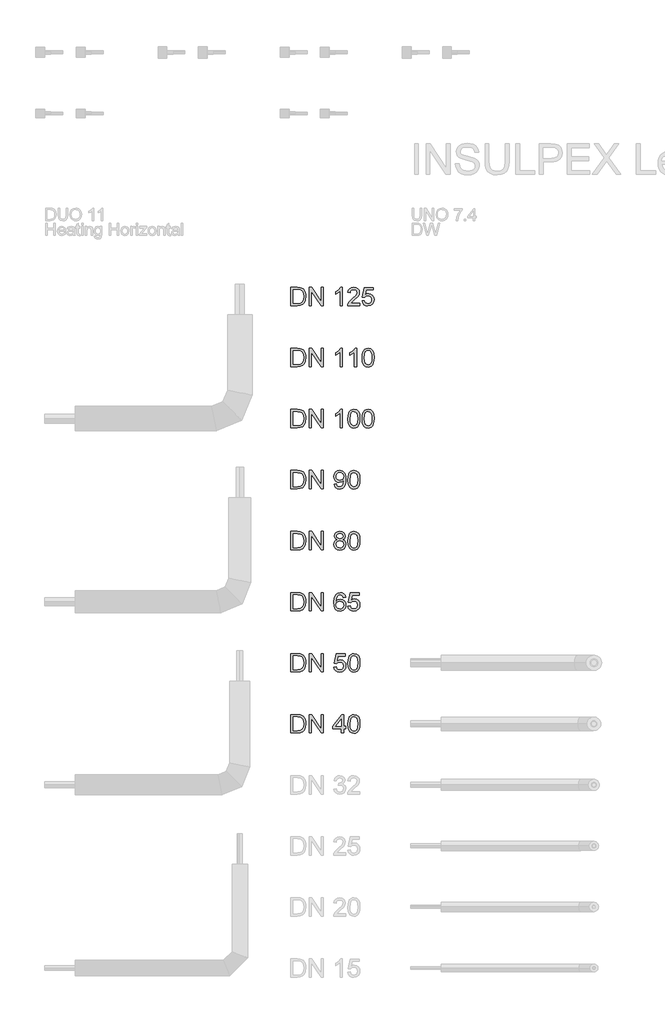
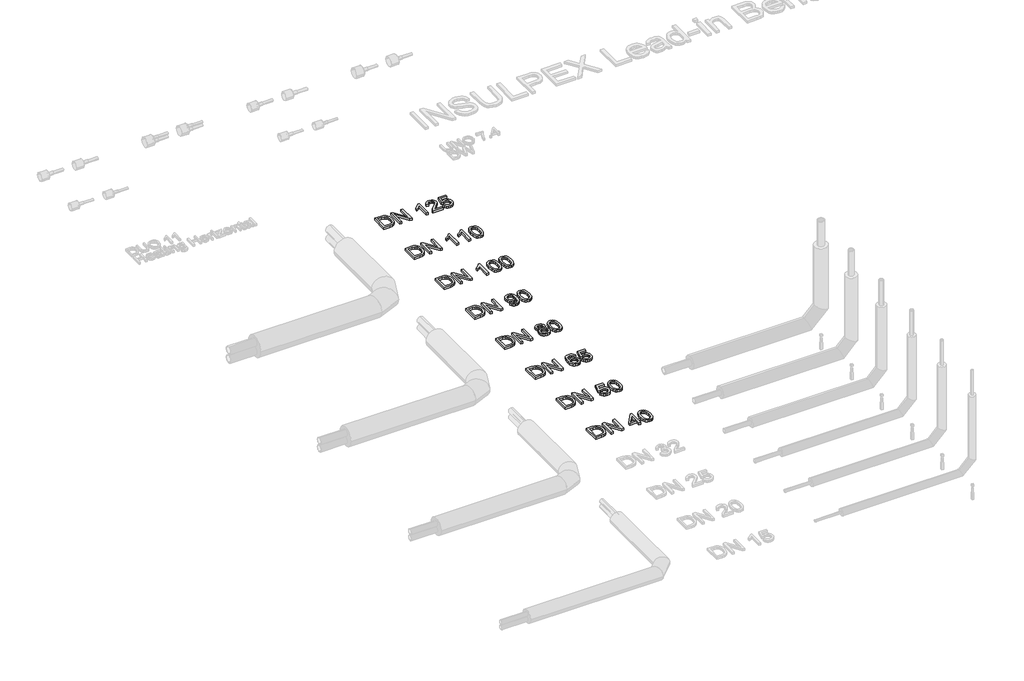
# One storey, part 19 of 44: 8 proxies.
"""IFC4 building model written with IfcOpenShell, lengths in millimetres."""

import ifcopenshell
import ifcopenshell.guid

model = None  # the IFC model being written
_history = None  # IfcOwnerHistory: only IFC2X3 demands one
_inside = {}  # id of a spatial element -> (the spatial element, [elements in it])
_under = {}  # id of a project, library or spatial element -> (it, [spatial elements below it])
_declared = {}  # id of a project -> (the project, [libraries it declares])
_typed = {}  # id of a type object -> (the type object, [elements of that type])
_made_of = {}  # id of a material, layer set ... -> (it, [elements and type objects made of it])


def new_model(schema):
    """Start an empty IFC model of exactly this schema.

    Asked for "IFC4X3", IfcOpenShell would pick the latest addendum, in which some entities
    have other attributes; the version numbers below select the first issue.
    IFC2X3 requires an IfcOwnerHistory on every rooted entity: one is made here for all.
    """
    global model, _history
    if schema == "IFC4X3":
        model = ifcopenshell.file(schema_version=(4, 3, 0, 0))
    else:
        model = ifcopenshell.file(schema=schema)
    _inside.clear()
    _under.clear()
    _declared.clear()
    _typed.clear()
    _made_of.clear()
    _history = None
    if model.schema == "IFC2X3":
        org = make("IfcOrganization", Name="unknown")
        user = make(
            "IfcPersonAndOrganization",
            ThePerson=make("IfcPerson", FamilyName="unknown"),
            TheOrganization=org,
        )
        app = make(
            "IfcApplication",
            ApplicationDeveloper=org,
            Version="unknown",
            ApplicationFullName="unknown",
            ApplicationIdentifier="unknown",
        )
        _history = make(
            "IfcOwnerHistory",
            OwningUser=user,
            OwningApplication=app,
            ChangeAction="ADDED",
            CreationDate=0,
        )
    return model


def make(cls, **values):
    """One entity of the class cls with the attributes given. An attribute that is None is left unset."""
    return model.create_entity(
        cls, **{name: value for name, value in values.items() if value is not None}
    )


def rooted(cls, **values):
    """An entity with a GlobalId (a new one), such as an element, a storey or a relation."""
    return make(cls, GlobalId=ifcopenshell.guid.new(), OwnerHistory=_history, **values)


def si_unit(unit_type, name, prefix=None):
    """IfcSIUnit, for example si_unit("LENGTHUNIT", "METRE", prefix="MILLI")."""
    return make("IfcSIUnit", UnitType=unit_type, Prefix=prefix, Name=name)


def assignment(units):
    """IfcUnitAssignment: the units of a project."""
    return None if units is None else make("IfcUnitAssignment", Units=units)


def point(xyz):
    """IfcCartesianPoint."""
    return None if xyz is None else make("IfcCartesianPoint", Coordinates=xyz)


def direction(xyz):
    """IfcDirection."""
    return None if xyz is None else make("IfcDirection", DirectionRatios=xyz)


def frame(location, z_axis=None, x_axis=None):
    """IfcAxis2Placement3D, a coordinate frame: its origin and axes. An axis left out is left unset."""
    return make(
        "IfcAxis2Placement3D",
        Location=point(location),
        Axis=direction(z_axis),
        RefDirection=direction(x_axis),
    )


def origin():
    """The frame at (0, 0, 0) with its axes left unset."""
    return frame((0.0, 0.0, 0.0))


def origin_with_axes():
    """The frame at (0, 0, 0) with the z axis (0, 0, 1) and the x axis (1, 0, 0) written out."""
    return frame((0.0, 0.0, 0.0), z_axis=(0.0, 0.0, 1.0), x_axis=(1.0, 0.0, 0.0))


def place(relative_to, where):
    """IfcLocalPlacement: puts the frame where relative to a parent placement (None: the world)."""
    return make(
        "IfcLocalPlacement", PlacementRelTo=relative_to, RelativePlacement=where
    )


def context(
    kind, dimensions, precision=None, world=None, true_north=None, identifier=None
):
    """IfcGeometricRepresentationContext, for example the 3D "Model" context."""
    return make(
        "IfcGeometricRepresentationContext",
        ContextIdentifier=identifier,
        ContextType=kind,
        CoordinateSpaceDimension=dimensions,
        Precision=precision,
        WorldCoordinateSystem=world,
        TrueNorth=true_north,
    )


def project(units=None, contexts=None):
    """IfcProject with its units and contexts."""
    return rooted(
        "IfcProject",
        Name="project",
        RepresentationContexts=contexts,
        UnitsInContext=assignment(units),
    )


def spatial(cls, under=None, at=None, **own):
    """A site, building, storey or space (cls), placed at a placement, below another one or the project."""
    s = rooted(cls, ObjectPlacement=at, **own)
    if under is not None:
        _under.setdefault(under.id(), (under, []))[1].append(s)
    return s


def polyline(points):
    """IfcPolyline through the points."""
    return make("IfcPolyline", Points=[point(p) for p in points])


def outline(outer, holes=None, kind="AREA"):
    """IfcArbitraryClosedProfileDef: a profile drawn as a closed curve; with holes, ...WithVoids."""
    if holes is None:
        return make("IfcArbitraryClosedProfileDef", ProfileType=kind, OuterCurve=outer)
    return make(
        "IfcArbitraryProfileDefWithVoids",
        ProfileType=kind,
        OuterCurve=outer,
        InnerCurves=holes,
    )


def extrude(swept, where, along, depth):
    """IfcExtrudedAreaSolid: the profile swept, set in the frame where, extruded along a direction by depth."""
    return make(
        "IfcExtrudedAreaSolid",
        SweptArea=swept,
        Position=where,
        ExtrudedDirection=direction(along),
        Depth=depth,
    )


def shape(context_of_items, identifier, shape_type, items):
    """IfcShapeRepresentation: the items that make up one representation, for example the "Body"."""
    return make(
        "IfcShapeRepresentation",
        ContextOfItems=context_of_items,
        RepresentationIdentifier=identifier,
        RepresentationType=shape_type,
        Items=items,
    )


def made_of(thing, what):
    """Note that an element or type object is made of a material, layer set ...; save() writes the relation."""
    if what is not None:
        _made_of.setdefault(what.id(), (what, []))[1].append(thing)
    return thing


def element(
    cls,
    number,
    at=None,
    inside=None,
    cuts=None,
    type_object=None,
    material=None,
    context=None,
    identifier="Body",
    shape_type=None,
    held_by="IfcProductDefinitionShape",
    body=None,
    shapes=None,
    **own,
):
    """One element of the class cls, such as IfcWall. Its Tag is "e" and its number.

    at: its placement. inside: the storey or other place that contains it. cuts: it is an
    opening in that element (IfcRelVoidsElement). A single representation is given by context,
    identifier, shape_type and body (its items); several are given by shapes. held_by: the class
    of the entity that holds the representations. save() writes the other relations.
    """
    e = rooted(cls, Tag="e%d" % number, ObjectPlacement=at, **own)
    if body is not None:
        shapes = [shape(context, identifier, shape_type, body)]
    if shapes is not None:
        e.Representation = make(held_by, Representations=shapes)
    if inside is not None:
        _inside.setdefault(inside.id(), (inside, []))[1].append(e)
    if cuts is not None:
        rooted(
            "IfcRelVoidsElement", RelatingBuildingElement=cuts, RelatedOpeningElement=e
        )
    if type_object is not None:
        _typed.setdefault(type_object.id(), (type_object, []))[1].append(e)
    return made_of(e, material)


def aggregate(whole, parts):
    """IfcRelAggregates: a whole, such as a stair, and the parts it consists of."""
    return rooted("IfcRelAggregates", RelatingObject=whole, RelatedObjects=parts)


def save(model, path):
    """Write the relations noted so far, then the file.

    IfcRelAggregates (storeys below a building ...), IfcRelContainedInSpatialStructure (elements
    in a storey), IfcRelDefinesByType, IfcRelAssociatesMaterial and IfcRelDeclares: one each for
    every whole, place, type object, material and project.
    """
    for whole, parts in _under.values():
        aggregate(whole, parts)
    for where, things in _inside.values():
        rooted(
            "IfcRelContainedInSpatialStructure",
            RelatedElements=things,
            RelatingStructure=where,
        )
    for kind, things in _typed.values():
        rooted("IfcRelDefinesByType", RelatedObjects=things, RelatingType=kind)
    for what, things in _made_of.values():
        rooted("IfcRelAssociatesMaterial", RelatedObjects=things, RelatingMaterial=what)
    for by, libraries in _declared.values():
        rooted("IfcRelDeclares", RelatingContext=by, RelatedDefinitions=libraries)
    model.write(path)


model = new_model("IFC4")

# Units and contexts
model_context = context("Model", 3, world=origin())
ifc_project = project(units=[si_unit("LENGTHUNIT", "METRE", prefix="MILLI")], contexts=[model_context])

# Site, building, storey
site = spatial("IfcSite", under=ifc_project)
building = spatial("IfcBuilding", under=site)
storey = spatial("IfcBuildingStorey", under=building, Name="REHAU Starting view", Elevation=0.0)

# Proxies
placement = place(None, origin())
element("IfcBuildingElementProxy", 1, Name="150", ObjectType="150", at=placement, inside=storey, context=model_context, shape_type="SweptSolid", body=[
    extrude(outline(polyline([(18016.4811134, 1925.0), (18016.4811134, 2075.6844652), (18068.4628393, 2075.6844652), (18095.3550131, 2073.5139615), (18117.5015093, 2062.735019), (18127.9217668, 2051.2571007), (18135.343786, 2036.9832793), (18139.7859611, 2020.1894663), (18141.2666861, 2001.151573), (18137.2567724, 1970.7461261), (18126.9560765, 1948.8019651), (18113.1972899, 1935.135149), (18095.1894663, 1927.575174), (18070.9644369, 1925.0), (18016.4811134, 1925.0)]), holes=[polyline([(18035.3166715, 1943.8355582), (18068.6467803, 1943.8355582), (18092.8902038, 1946.5578849), (18106.8697196, 1954.2466186), (18118.3292437, 1972.9534181), (18122.431128, 2001.4458786), (18120.4215726, 2021.9736939), (18114.3929064, 2037.1304321), (18105.4855636, 2047.5414926), (18094.8399784, 2053.8322747), (18068.1317455, 2056.8489071), (18035.3166715, 2056.8489071), (18035.3166715, 1943.8355582)])]), origin_with_axes(), (0.0, 0.0, 1.0), 20.0),
    extrude(outline(polyline([(18167.1655786, 1925.0), (18167.1655786, 2075.6844652), (18187.3255119, 2075.6844652), (18266.0522589, 1956.3067578), (18266.0522589, 2075.6844652), (18284.8878171, 2075.6844652), (18284.8878171, 1925.0), (18264.7278837, 1925.0), (18186.0011368, 2044.4144956), (18186.0011368, 1925.0), (18167.1655786, 1925.0)])), origin_with_axes(), (0.0, 0.0, 1.0), 20.0),
    extrude(outline(polyline([(18430.8633928, 1925.0), (18430.8633928, 1960.3166715), (18362.5844944, 1960.3166715), (18362.5844944, 1979.1522297), (18435.5722823, 2073.3300205), (18449.6989509, 2073.3300205), (18449.6989509, 1979.1522297), (18468.5345091, 1979.1522297), (18468.5345091, 1960.3166715), (18449.6989509, 1960.3166715), (18449.6989509, 1925.0), (18430.8633928, 1925.0)]), holes=[polyline([(18430.8633928, 1979.1522297), (18430.8633928, 2037.3511613), (18385.7610601, 1979.1522297), (18430.8633928, 1979.1522297)])]), origin_with_axes(), (0.0, 0.0, 1.0), 20.0),
    extrude(outline(polyline([(18485.0156224, 1999.128222), (18486.3997784, 2023.2474853), (18490.5522465, 2042.4831152), (18497.4316398, 2057.1294171), (18506.9965717, 2067.4806967), (18519.31602, 2073.6335231), (18534.4589626, 2075.6844652), (18556.4583059, 2070.8284229), (18571.6518323, 2056.830513), (18580.4810002, 2034.5368641), (18583.9023027, 1999.128222), (18582.5319423, 1975.1469145), (18578.420861, 1955.9572699), (18571.5828544, 1941.2971724), (18562.0317181, 1930.904506), (18549.6846787, 1924.7102929), (18534.4589626, 1922.6455552), (18514.8876404, 1926.2324047), (18500.0252078, 1936.992953), (18488.7680188, 1962.4779783), (18485.0156224, 1999.128222)]), holes=[polyline([(18503.8511806, 1999.1650102), (18506.0584726, 1969.536714), (18512.6803485, 1952.3888145), (18522.5395859, 1944.2080387), (18534.4589626, 1941.4811134), (18546.3783392, 1944.2172357), (18556.2375767, 1952.4256027), (18562.8594526, 1969.5826993), (18565.0667446, 1999.1650102), (18562.933029, 2028.1265203), (18556.5318823, 2045.407777), (18546.6910389, 2053.9886246), (18534.2382334, 2056.8489071), (18522.4476155, 2054.3289154), (18512.9746541, 2046.7689404), (18506.132049, 2028.4116288), (18503.8511806, 1999.1650102)])]), origin_with_axes(), (0.0, 0.0, 1.0), 20.0),
])
element("IfcBuildingElementProxy", 2, Name="150", ObjectType="150", at=placement, inside=storey, context=model_context, shape_type="SweptSolid", body=[
    extrude(outline(polyline([(18016.4811134, 2425.0), (18016.4811134, 2575.6844652), (18068.4628393, 2575.6844652), (18095.3550131, 2573.5139615), (18117.5015093, 2562.735019), (18127.9217668, 2551.2571007), (18135.343786, 2536.9832793), (18139.7859611, 2520.1894663), (18141.2666861, 2501.151573), (18137.2567724, 2470.7461261), (18126.9560765, 2448.8019651), (18113.1972899, 2435.135149), (18095.1894663, 2427.575174), (18070.9644369, 2425.0), (18016.4811134, 2425.0)]), holes=[polyline([(18035.3166715, 2443.8355582), (18068.6467803, 2443.8355582), (18092.8902038, 2446.5578849), (18106.8697196, 2454.2466186), (18118.3292437, 2472.9534181), (18122.431128, 2501.4458786), (18120.4215726, 2521.9736939), (18114.3929064, 2537.1304321), (18105.4855636, 2547.5414926), (18094.8399784, 2553.8322747), (18068.1317455, 2556.8489071), (18035.3166715, 2556.8489071), (18035.3166715, 2443.8355582)])]), origin_with_axes(), (0.0, 0.0, 1.0), 20.0),
    extrude(outline(polyline([(18167.1655786, 2425.0), (18167.1655786, 2575.6844652), (18187.3255119, 2575.6844652), (18266.0522589, 2456.3067578), (18266.0522589, 2575.6844652), (18284.8878171, 2575.6844652), (18284.8878171, 2425.0), (18264.7278837, 2425.0), (18186.0011368, 2544.4144956), (18186.0011368, 2425.0), (18167.1655786, 2425.0)])), origin_with_axes(), (0.0, 0.0, 1.0), 20.0),
    extrude(outline(polyline([(18369.6478288, 2465.0255611), (18388.4833869, 2467.3800058), (18391.9414777, 2456.072233), (18397.9747424, 2447.9742306), (18406.5555899, 2443.1043927), (18417.6564291, 2441.4811134), (18431.1576983, 2443.7389891), (18441.2744532, 2450.5126164), (18447.5928265, 2461.0202459), (18449.6989509, 2474.4801284), (18447.7261837, 2487.1536631), (18441.8078821, 2496.8473537), (18431.8980609, 2503.00018), (18417.9507347, 2505.0511222), (18401.414439, 2501.7769724), (18390.8378317, 2493.2788983), (18372.0022735, 2495.6333431), (18388.4833869, 2573.3300205), (18461.4711747, 2573.3300205), (18461.4711747, 2554.4944623), (18403.7137015, 2554.4944623), (18395.6570858, 2512.9973732), (18409.1123698, 2521.1643535), (18423.2114473, 2523.8866803), (18440.8100022, 2520.511363), (18455.4195159, 2510.3854111), (18465.2557608, 2494.9527614), (18468.5345091, 2475.6573507), (18465.582256, 2456.8217926), (18456.725497, 2440.7085612), (18439.766137, 2427.1613067), (18417.5828527, 2422.6455552), (18399.0829869, 2425.5472245), (18384.3447145, 2434.2522322), (18374.2417552, 2447.7489029), (18369.6478288, 2465.0255611)])), origin_with_axes(), (0.0, 0.0, 1.0), 20.0),
    extrude(outline(polyline([(18485.0156224, 2499.128222), (18486.3997784, 2523.2474853), (18490.5522465, 2542.4831152), (18497.4316398, 2557.1294171), (18506.9965717, 2567.4806967), (18519.31602, 2573.6335231), (18534.4589626, 2575.6844652), (18556.4583059, 2570.8284229), (18571.6518323, 2556.830513), (18580.4810002, 2534.5368641), (18583.9023027, 2499.128222), (18582.5319423, 2475.1469145), (18578.420861, 2455.9572699), (18571.5828544, 2441.2971724), (18562.0317181, 2430.904506), (18549.6846787, 2424.7102929), (18534.4589626, 2422.6455552), (18514.8876404, 2426.2324047), (18500.0252078, 2436.992953), (18488.7680188, 2462.4779783), (18485.0156224, 2499.128222)]), holes=[polyline([(18503.8511806, 2499.1650102), (18506.0584726, 2469.536714), (18512.6803485, 2452.3888145), (18522.5395859, 2444.2080387), (18534.4589626, 2441.4811134), (18546.3783392, 2444.2172357), (18556.2375767, 2452.4256027), (18562.8594526, 2469.5826993), (18565.0667446, 2499.1650102), (18562.933029, 2528.1265203), (18556.5318823, 2545.407777), (18546.6910389, 2553.9886246), (18534.2382334, 2556.8489071), (18522.4476155, 2554.3289154), (18512.9746541, 2546.7689404), (18506.132049, 2528.4116288), (18503.8511806, 2499.1650102)])]), origin_with_axes(), (0.0, 0.0, 1.0), 20.0),
])
element("IfcBuildingElementProxy", 3, Name="150", ObjectType="150", at=placement, inside=storey, context=model_context, shape_type="SweptSolid", body=[
    extrude(outline(polyline([(18016.4811134, 2925.0), (18016.4811134, 3075.6844652), (18068.4628393, 3075.6844652), (18095.3550131, 3073.5139615), (18117.5015093, 3062.735019), (18127.9217668, 3051.2571007), (18135.343786, 3036.9832793), (18139.7859611, 3020.1894663), (18141.2666861, 3001.151573), (18137.2567724, 2970.7461261), (18126.9560765, 2948.8019651), (18113.1972899, 2935.135149), (18095.1894663, 2927.575174), (18070.9644369, 2925.0), (18016.4811134, 2925.0)]), holes=[polyline([(18035.3166715, 2943.8355582), (18068.6467803, 2943.8355582), (18092.8902038, 2946.5578849), (18106.8697196, 2954.2466186), (18118.3292437, 2972.9534181), (18122.431128, 3001.4458786), (18120.4215726, 3021.9736939), (18114.3929064, 3037.1304321), (18105.4855636, 3047.5414926), (18094.8399784, 3053.8322747), (18068.1317455, 3056.8489071), (18035.3166715, 3056.8489071), (18035.3166715, 2943.8355582)])]), origin_with_axes(), (0.0, 0.0, 1.0), 20.0),
    extrude(outline(polyline([(18167.1655786, 2925.0), (18167.1655786, 3075.6844652), (18187.3255119, 3075.6844652), (18266.0522589, 2956.3067578), (18266.0522589, 3075.6844652), (18284.8878171, 3075.6844652), (18284.8878171, 2925.0), (18264.7278837, 2925.0), (18186.0011368, 3044.4144956), (18186.0011368, 2925.0), (18167.1655786, 2925.0)])), origin_with_axes(), (0.0, 0.0, 1.0), 20.0),
    extrude(outline(polyline([(18466.1800643, 3035.6589041), (18447.3445061, 3033.3044594), (18440.2075954, 3049.0130206), (18431.6635361, 3054.8899354), (18421.3352491, 3056.8489071), (18404.3391009, 3052.2871703), (18391.4816252, 3035.1622635), (18387.5774775, 3021.1321639), (18386.1289421, 3001.5930314), (18402.7388142, 3016.6210109), (18423.3218118, 3021.5322355), (18440.7226302, 3018.1753123), (18455.3275454, 3008.1045427), (18465.2327682, 2992.7178783), (18468.5345091, 2973.4132706), (18466.9802076, 2959.9257969), (18462.3173033, 2947.4224076), (18454.9320723, 2936.8182091), (18445.2107906, 2929.0283078), (18433.5949166, 2924.2412434), (18420.5259087, 2922.6455552), (18399.1565633, 2926.8761982), (18382.1374225, 2939.568127), (18371.0043936, 2961.9721405), (18367.293384, 2995.3390375), (18371.4136623, 3032.8538039), (18383.7744974, 3058.504376), (18400.6510839, 3071.3894429), (18422.5124715, 3075.6844652), (18439.0395701, 3073.0265178), (18452.2741249, 3065.0526756), (18461.5447511, 3052.3883379), (18466.1800643, 3035.6589041)]), holes=[polyline([(18386.1289421, 2973.7075762), (18390.4883438, 2957.3920097), (18402.0766266, 2945.5462094), (18419.0543807, 2941.4811134), (18431.4841936, 2943.5872378), (18441.2560591, 2949.9056111), (18447.588228, 2959.8384249), (18449.6989509, 2972.7878712), (18447.6158191, 2985.2176841), (18441.3664237, 2994.695244), (18431.4290113, 3000.696319), (18418.2818285, 3002.6966774), (18405.8704097, 3000.696319), (18395.4915389, 2994.695244), (18388.4695913, 2985.4476103), (18386.1289421, 2973.7075762)])]), origin_with_axes(), (0.0, 0.0, 1.0), 20.0),
    extrude(outline(polyline([(18485.0156224, 2965.0255611), (18503.8511806, 2967.3800058), (18507.3092713, 2956.072233), (18513.3425361, 2947.9742306), (18521.9233836, 2943.1043927), (18533.0242228, 2941.4811134), (18546.525492, 2943.7389891), (18556.6422469, 2950.5126164), (18562.9606202, 2961.0202459), (18565.0667446, 2974.4801284), (18563.0939774, 2987.1536631), (18557.1756758, 2996.8473537), (18547.2658545, 3003.00018), (18533.3185284, 3005.0511222), (18516.7822327, 3001.7769724), (18506.2056254, 2993.2788983), (18487.3700672, 2995.6333431), (18503.8511806, 3073.3300205), (18576.8389684, 3073.3300205), (18576.8389684, 3054.4944623), (18519.0814952, 3054.4944623), (18511.0248795, 3012.9973732), (18524.4801635, 3021.1643535), (18538.5792409, 3023.8866803), (18556.1777959, 3020.511363), (18570.7873096, 3010.3854111), (18580.6235545, 2994.9527614), (18583.9023027, 2975.6573507), (18580.9500497, 2956.8217926), (18572.0932907, 2940.7085612), (18555.1339307, 2927.1613067), (18532.9506464, 2922.6455552), (18514.4507806, 2925.5472245), (18499.7125081, 2934.2522322), (18489.6095489, 2947.7489029), (18485.0156224, 2965.0255611)])), origin_with_axes(), (0.0, 0.0, 1.0), 20.0),
])
element("IfcBuildingElementProxy", 4, Name="150", ObjectType="150", at=placement, inside=storey, context=model_context, shape_type="SweptSolid", body=[
    extrude(outline(polyline([(18016.4811134, 3425.0), (18016.4811134, 3575.6844652), (18068.4628393, 3575.6844652), (18095.3550131, 3573.5139615), (18117.5015093, 3562.735019), (18127.9217668, 3551.2571007), (18135.343786, 3536.9832793), (18139.7859611, 3520.1894663), (18141.2666861, 3501.151573), (18137.2567724, 3470.7461261), (18126.9560765, 3448.8019651), (18113.1972899, 3435.135149), (18095.1894663, 3427.575174), (18070.9644369, 3425.0), (18016.4811134, 3425.0)]), holes=[polyline([(18035.3166715, 3443.8355582), (18068.6467803, 3443.8355582), (18092.8902038, 3446.5578849), (18106.8697196, 3454.2466186), (18118.3292437, 3472.9534181), (18122.431128, 3501.4458786), (18120.4215726, 3521.9736939), (18114.3929064, 3537.1304321), (18105.4855636, 3547.5414926), (18094.8399784, 3553.8322747), (18068.1317455, 3556.8489071), (18035.3166715, 3556.8489071), (18035.3166715, 3443.8355582)])]), origin_with_axes(), (0.0, 0.0, 1.0), 20.0),
    extrude(outline(polyline([(18167.1655786, 3425.0), (18167.1655786, 3575.6844652), (18187.3255119, 3575.6844652), (18266.0522589, 3456.3067578), (18266.0522589, 3575.6844652), (18284.8878171, 3575.6844652), (18284.8878171, 3425.0), (18264.7278837, 3425.0), (18186.0011368, 3544.4144956), (18186.0011368, 3425.0), (18167.1655786, 3425.0)])), origin_with_axes(), (0.0, 0.0, 1.0), 20.0),
    extrude(outline(polyline([(18397.0918256, 3507.9941781), (18379.9301305, 3519.6928256), (18374.3567183, 3537.9029843), (18377.3917448, 3552.6274612), (18386.4968241, 3564.7951582), (18400.6510839, 3572.9621385), (18418.8336515, 3575.6844652), (18437.1265837, 3572.8977591), (18451.4647845, 3564.5376408), (18460.7354108, 3552.1768057), (18463.8256195, 3537.3879495), (18458.3257837, 3519.6376433), (18441.6423352, 3507.9941781), (18453.2352166, 3502.0206942), (18461.6735098, 3493.223716), (18466.8192593, 3482.0263078), (18468.5345091, 3468.8515338), (18465.1316006, 3450.8437102), (18454.9228752, 3435.9628835), (18439.1591317, 3425.9748873), (18419.0911689, 3422.6455552), (18399.0232061, 3425.9886829), (18383.2594626, 3436.0180658), (18373.0507372, 3451.0414467), (18369.6478288, 3469.3665686), (18371.4320564, 3483.0517788), (18376.7847395, 3494.3089679), (18385.4299663, 3502.7518597), (18397.0918256, 3507.9941781)]), holes=[polyline([(18393.1922764, 3537.3511613), (18394.861541, 3529.1289987), (18399.8693347, 3522.5623051), (18408.0685046, 3518.2580858), (18419.3118981, 3516.823346), (18430.2931757, 3518.2488887), (18438.3681855, 3522.5255169), (18443.3345924, 3528.8714813), (18444.9900614, 3536.5050327), (18443.2794101, 3544.4282912), (18438.1474563, 3550.9811892), (18429.9620819, 3555.3819776), (18419.0911689, 3556.8489071), (18408.1512781, 3555.4141673), (18399.9796993, 3551.1099479), (18394.8891321, 3544.8007717), (18393.1922764, 3537.3511613)]), polyline([(18388.4833869, 3470.0287562), (18391.628778, 3455.8469053), (18402.7572083, 3445.2335097), (18419.2383217, 3441.4811134), (18432.0590092, 3443.4538806), (18441.6791234, 3449.3721822), (18447.693994, 3458.3347073), (18449.6989509, 3469.440145), (18447.6296147, 3480.7341223), (18441.421606, 3489.8943839), (18431.5807626, 3495.9644369), (18418.6129223, 3497.9877878), (18405.9715773, 3495.992028), (18396.4480321, 3490.0047485), (18390.4745482, 3481.0192308), (18388.4833869, 3470.0287562)])]), origin_with_axes(), (0.0, 0.0, 1.0), 20.0),
    extrude(outline(polyline([(18485.0156224, 3499.128222), (18486.3997784, 3523.2474853), (18490.5522465, 3542.4831152), (18497.4316398, 3557.1294171), (18506.9965717, 3567.4806967), (18519.31602, 3573.6335231), (18534.4589626, 3575.6844652), (18556.4583059, 3570.8284229), (18571.6518323, 3556.830513), (18580.4810002, 3534.5368641), (18583.9023027, 3499.128222), (18582.5319423, 3475.1469145), (18578.420861, 3455.9572699), (18571.5828544, 3441.2971724), (18562.0317181, 3430.904506), (18549.6846787, 3424.7102929), (18534.4589626, 3422.6455552), (18514.8876404, 3426.2324047), (18500.0252078, 3436.992953), (18488.7680188, 3462.4779783), (18485.0156224, 3499.128222)]), holes=[polyline([(18503.8511806, 3499.1650102), (18506.0584726, 3469.536714), (18512.6803485, 3452.3888145), (18522.5395859, 3444.2080387), (18534.4589626, 3441.4811134), (18546.3783392, 3444.2172357), (18556.2375767, 3452.4256027), (18562.8594526, 3469.5826993), (18565.0667446, 3499.1650102), (18562.933029, 3528.1265203), (18556.5318823, 3545.407777), (18546.6910389, 3553.9886246), (18534.2382334, 3556.8489071), (18522.4476155, 3554.3289154), (18512.9746541, 3546.7689404), (18506.132049, 3528.4116288), (18503.8511806, 3499.1650102)])]), origin_with_axes(), (0.0, 0.0, 1.0), 20.0),
])
element("IfcBuildingElementProxy", 5, Name="150", ObjectType="150", at=placement, inside=storey, context=model_context, shape_type="SweptSolid", body=[
    extrude(outline(polyline([(18016.4811134, 3925.0), (18016.4811134, 4075.6844652), (18068.4628393, 4075.6844652), (18095.3550131, 4073.5139615), (18117.5015093, 4062.735019), (18127.9217668, 4051.2571007), (18135.343786, 4036.9832793), (18139.7859611, 4020.1894663), (18141.2666861, 4001.151573), (18137.2567724, 3970.7461261), (18126.9560765, 3948.8019651), (18113.1972899, 3935.135149), (18095.1894663, 3927.575174), (18070.9644369, 3925.0), (18016.4811134, 3925.0)]), holes=[polyline([(18035.3166715, 3943.8355582), (18068.6467803, 3943.8355582), (18092.8902038, 3946.5578849), (18106.8697196, 3954.2466186), (18118.3292437, 3972.9534181), (18122.431128, 4001.4458786), (18120.4215726, 4021.9736939), (18114.3929064, 4037.1304321), (18105.4855636, 4047.5414926), (18094.8399784, 4053.8322747), (18068.1317455, 4056.8489071), (18035.3166715, 4056.8489071), (18035.3166715, 3943.8355582)])]), origin_with_axes(), (0.0, 0.0, 1.0), 20.0),
    extrude(outline(polyline([(18167.1655786, 3925.0), (18167.1655786, 4075.6844652), (18187.3255119, 4075.6844652), (18266.0522589, 3956.3067578), (18266.0522589, 4075.6844652), (18284.8878171, 4075.6844652), (18284.8878171, 3925.0), (18264.7278837, 3925.0), (18186.0011368, 4044.4144956), (18186.0011368, 3925.0), (18167.1655786, 3925.0)])), origin_with_axes(), (0.0, 0.0, 1.0), 20.0),
    extrude(outline(polyline([(18372.0022735, 3962.6711163), (18390.8378317, 3965.0255611), (18394.0567991, 3954.3339906), (18399.2991176, 3947.0545256), (18406.4360283, 3942.8744664), (18415.3387726, 3941.4811134), (18430.5874813, 3945.0679628), (18440.9249653, 3954.6512888), (18447.0869887, 3971.0220376), (18449.8093155, 3992.8742281), (18449.6989509, 3996.5530481), (18434.6341832, 3982.2792266), (18413.9776092, 3976.7977849), (18396.8021185, 3980.1455111), (18382.5053045, 3990.1886895), (18372.8621977, 4005.7041127), (18369.6478288, 4025.4685729), (18373.0185475, 4045.8860236), (18383.1307039, 4061.8888904), (18398.3196318, 4072.2355715), (18416.9206651, 4075.6844652), (18430.9691588, 4073.7162966), (18443.7576567, 4067.8117905), (18454.4538257, 4058.2652528), (18462.2253328, 4045.3709888), (18466.957215, 4027.5471062), (18468.5345091, 4003.2117122), (18466.9618135, 3977.4093887), (18462.2437269, 3957.4655861), (18454.421636, 3942.4789933), (18443.5369275, 3931.5482995), (18430.0586509, 3924.8712413), (18414.4558558, 3922.6455552), (18398.3518214, 3925.271313), (18385.5035427, 3933.1485862), (18376.518025, 3945.7807342), (18372.0022735, 3962.6711163)]), holes=[polyline([(18449.6989509, 4025.9100313), (18447.6664029, 4038.6755365), (18441.5687588, 4048.4979858), (18432.1049945, 4054.7611767), (18419.9740857, 4056.8489071), (18407.3925215, 4054.6002284), (18397.3125548, 4047.8541923), (18390.6906789, 4037.5305038), (18388.4833869, 4024.5488679), (18390.5711172, 4012.9100013), (18396.8343082, 4003.6715647), (18406.6659545, 3997.6428985), (18419.4590509, 3995.6333431), (18431.4933907, 3997.6428985), (18441.1824827, 4003.6715647), (18447.5698339, 4013.2502921), (18449.6989509, 4025.9100313)])]), origin_with_axes(), (0.0, 0.0, 1.0), 20.0),
    extrude(outline(polyline([(18485.0156224, 3999.128222), (18486.3997784, 4023.2474853), (18490.5522465, 4042.4831152), (18497.4316398, 4057.1294171), (18506.9965717, 4067.4806967), (18519.31602, 4073.6335231), (18534.4589626, 4075.6844652), (18556.4583059, 4070.8284229), (18571.6518323, 4056.830513), (18580.4810002, 4034.5368641), (18583.9023027, 3999.128222), (18582.5319423, 3975.1469145), (18578.420861, 3955.9572699), (18571.5828544, 3941.2971724), (18562.0317181, 3930.904506), (18549.6846787, 3924.7102929), (18534.4589626, 3922.6455552), (18514.8876404, 3926.2324047), (18500.0252078, 3936.992953), (18488.7680188, 3962.4779783), (18485.0156224, 3999.128222)]), holes=[polyline([(18503.8511806, 3999.1650102), (18506.0584726, 3969.536714), (18512.6803485, 3952.3888145), (18522.5395859, 3944.2080387), (18534.4589626, 3941.4811134), (18546.3783392, 3944.2172357), (18556.2375767, 3952.4256027), (18562.8594526, 3969.5826993), (18565.0667446, 3999.1650102), (18562.933029, 4028.1265203), (18556.5318823, 4045.407777), (18546.6910389, 4053.9886246), (18534.2382334, 4056.8489071), (18522.4476155, 4054.3289154), (18512.9746541, 4046.7689404), (18506.132049, 4028.4116288), (18503.8511806, 3999.1650102)])]), origin_with_axes(), (0.0, 0.0, 1.0), 20.0),
])
element("IfcBuildingElementProxy", 6, Name="150", ObjectType="150", at=placement, inside=storey, context=model_context, shape_type="SweptSolid", body=[
    extrude(outline(polyline([(18016.4811134, 4425.0), (18016.4811134, 4575.6844652), (18068.4628393, 4575.6844652), (18095.3550131, 4573.5139615), (18117.5015093, 4562.735019), (18127.9217668, 4551.2571007), (18135.343786, 4536.9832793), (18139.7859611, 4520.1894663), (18141.2666861, 4501.151573), (18137.2567724, 4470.7461261), (18126.9560765, 4448.8019651), (18113.1972899, 4435.135149), (18095.1894663, 4427.575174), (18070.9644369, 4425.0), (18016.4811134, 4425.0)]), holes=[polyline([(18035.3166715, 4443.8355582), (18068.6467803, 4443.8355582), (18092.8902038, 4446.5578849), (18106.8697196, 4454.2466186), (18118.3292437, 4472.9534181), (18122.431128, 4501.4458786), (18120.4215726, 4521.9736939), (18114.3929064, 4537.1304321), (18105.4855636, 4547.5414926), (18094.8399784, 4553.8322747), (18068.1317455, 4556.8489071), (18035.3166715, 4556.8489071), (18035.3166715, 4443.8355582)])]), origin_with_axes(), (0.0, 0.0, 1.0), 20.0),
    extrude(outline(polyline([(18167.1655786, 4425.0), (18167.1655786, 4575.6844652), (18187.3255119, 4575.6844652), (18266.0522589, 4456.3067578), (18266.0522589, 4575.6844652), (18284.8878171, 4575.6844652), (18284.8878171, 4425.0), (18264.7278837, 4425.0), (18186.0011368, 4544.4144956), (18186.0011368, 4425.0), (18167.1655786, 4425.0)])), origin_with_axes(), (0.0, 0.0, 1.0), 20.0),
    extrude(outline(polyline([(18440.2811718, 4425.0), (18421.4456137, 4425.0), (18421.4456137, 4542.4279329), (18403.6033369, 4529.7176099), (18383.7744974, 4520.2078604), (18383.7744974, 4538.0133489), (18411.3840411, 4555.6348965), (18428.141066, 4575.6844652), (18440.2811718, 4575.6844652), (18440.2811718, 4425.0)])), origin_with_axes(), (0.0, 0.0, 1.0), 20.0),
    extrude(outline(polyline([(18485.0156224, 4499.128222), (18486.3997784, 4523.2474853), (18490.5522465, 4542.4831152), (18497.4316398, 4557.1294171), (18506.9965717, 4567.4806967), (18519.31602, 4573.6335231), (18534.4589626, 4575.6844652), (18556.4583059, 4570.8284229), (18571.6518323, 4556.830513), (18580.4810002, 4534.5368641), (18583.9023027, 4499.128222), (18582.5319423, 4475.1469145), (18578.420861, 4455.9572699), (18571.5828544, 4441.2971724), (18562.0317181, 4430.904506), (18549.6846787, 4424.7102929), (18534.4589626, 4422.6455552), (18514.8876404, 4426.2324047), (18500.0252078, 4436.992953), (18488.7680188, 4462.4779783), (18485.0156224, 4499.128222)]), holes=[polyline([(18503.8511806, 4499.1650102), (18506.0584726, 4469.536714), (18512.6803485, 4452.3888145), (18522.5395859, 4444.2080387), (18534.4589626, 4441.4811134), (18546.3783392, 4444.2172357), (18556.2375767, 4452.4256027), (18562.8594526, 4469.5826993), (18565.0667446, 4499.1650102), (18562.933029, 4528.1265203), (18556.5318823, 4545.407777), (18546.6910389, 4553.9886246), (18534.2382334, 4556.8489071), (18522.4476155, 4554.3289154), (18512.9746541, 4546.7689404), (18506.132049, 4528.4116288), (18503.8511806, 4499.1650102)])]), origin_with_axes(), (0.0, 0.0, 1.0), 20.0),
    extrude(outline(polyline([(18600.3834161, 4499.128222), (18601.7675721, 4523.2474853), (18605.9200402, 4542.4831152), (18612.7994335, 4557.1294171), (18622.3643653, 4567.4806967), (18634.6838137, 4573.6335231), (18649.8267563, 4575.6844652), (18671.8260996, 4570.8284229), (18687.019626, 4556.830513), (18695.8487939, 4534.5368641), (18699.2700964, 4499.128222), (18697.899736, 4475.1469145), (18693.7886547, 4455.9572699), (18686.9506481, 4441.2971724), (18677.3995118, 4430.904506), (18665.0524724, 4424.7102929), (18649.8267563, 4422.6455552), (18630.2554341, 4426.2324047), (18615.3930015, 4436.992953), (18604.1358125, 4462.4779783), (18600.3834161, 4499.128222)]), holes=[polyline([(18619.2189743, 4499.1650102), (18621.4262663, 4469.536714), (18628.0481422, 4452.3888145), (18637.9073796, 4444.2080387), (18649.8267563, 4441.4811134), (18661.7461329, 4444.2172357), (18671.6053704, 4452.4256027), (18678.2272463, 4469.5826993), (18680.4345383, 4499.1650102), (18678.3008227, 4528.1265203), (18671.899676, 4545.407777), (18662.0588326, 4553.9886246), (18649.6060271, 4556.8489071), (18637.8154091, 4554.3289154), (18628.3424478, 4546.7689404), (18621.4998427, 4528.4116288), (18619.2189743, 4499.1650102)])]), origin_with_axes(), (0.0, 0.0, 1.0), 20.0),
])
element("IfcBuildingElementProxy", 7, Name="150", ObjectType="150", at=placement, inside=storey, context=model_context, shape_type="SweptSolid", body=[
    extrude(outline(polyline([(18016.4811134, 4925.0), (18016.4811134, 5075.6844652), (18068.4628393, 5075.6844652), (18095.3550131, 5073.5139615), (18117.5015093, 5062.735019), (18127.9217668, 5051.2571007), (18135.343786, 5036.9832793), (18139.7859611, 5020.1894663), (18141.2666861, 5001.151573), (18137.2567724, 4970.7461261), (18126.9560765, 4948.8019651), (18113.1972899, 4935.135149), (18095.1894663, 4927.575174), (18070.9644369, 4925.0), (18016.4811134, 4925.0)]), holes=[polyline([(18035.3166715, 4943.8355582), (18068.6467803, 4943.8355582), (18092.8902038, 4946.5578849), (18106.8697196, 4954.2466186), (18118.3292437, 4972.9534181), (18122.431128, 5001.4458786), (18120.4215726, 5021.9736939), (18114.3929064, 5037.1304321), (18105.4855636, 5047.5414926), (18094.8399784, 5053.8322747), (18068.1317455, 5056.8489071), (18035.3166715, 5056.8489071), (18035.3166715, 4943.8355582)])]), origin_with_axes(), (0.0, 0.0, 1.0), 20.0),
    extrude(outline(polyline([(18167.1655786, 4925.0), (18167.1655786, 5075.6844652), (18187.3255119, 5075.6844652), (18266.0522589, 4956.3067578), (18266.0522589, 5075.6844652), (18284.8878171, 5075.6844652), (18284.8878171, 4925.0), (18264.7278837, 4925.0), (18186.0011368, 5044.4144956), (18186.0011368, 4925.0), (18167.1655786, 4925.0)])), origin_with_axes(), (0.0, 0.0, 1.0), 20.0),
    extrude(outline(polyline([(18440.2811718, 4925.0), (18421.4456137, 4925.0), (18421.4456137, 5042.4279329), (18403.6033369, 5029.7176099), (18383.7744974, 5020.2078604), (18383.7744974, 5038.0133489), (18411.3840411, 5055.6348965), (18428.141066, 5075.6844652), (18440.2811718, 5075.6844652), (18440.2811718, 4925.0)])), origin_with_axes(), (0.0, 0.0, 1.0), 20.0),
    extrude(outline(polyline([(18555.6489655, 4925.0), (18536.8134074, 4925.0), (18536.8134074, 5042.4279329), (18518.9711306, 5029.7176099), (18499.1422911, 5020.2078604), (18499.1422911, 5038.0133489), (18526.7518348, 5055.6348965), (18543.5088597, 5075.6844652), (18555.6489655, 5075.6844652), (18555.6489655, 4925.0)])), origin_with_axes(), (0.0, 0.0, 1.0), 20.0),
    extrude(outline(polyline([(18600.3834161, 4999.128222), (18601.7675721, 5023.2474853), (18605.9200402, 5042.4831152), (18612.7994335, 5057.1294171), (18622.3643653, 5067.4806967), (18634.6838137, 5073.6335231), (18649.8267563, 5075.6844652), (18671.8260996, 5070.8284229), (18687.019626, 5056.830513), (18695.8487939, 5034.5368641), (18699.2700964, 4999.128222), (18697.899736, 4975.1469145), (18693.7886547, 4955.9572699), (18686.9506481, 4941.2971724), (18677.3995118, 4930.904506), (18665.0524724, 4924.7102929), (18649.8267563, 4922.6455552), (18630.2554341, 4926.2324047), (18615.3930015, 4936.992953), (18604.1358125, 4962.4779783), (18600.3834161, 4999.128222)]), holes=[polyline([(18619.2189743, 4999.1650102), (18621.4262663, 4969.536714), (18628.0481422, 4952.3888145), (18637.9073796, 4944.2080387), (18649.8267563, 4941.4811134), (18661.7461329, 4944.2172357), (18671.6053704, 4952.4256027), (18678.2272463, 4969.5826993), (18680.4345383, 4999.1650102), (18678.3008227, 5028.1265203), (18671.899676, 5045.407777), (18662.0588326, 5053.9886246), (18649.6060271, 5056.8489071), (18637.8154091, 5054.3289154), (18628.3424478, 5046.7689404), (18621.4998427, 5028.4116288), (18619.2189743, 4999.1650102)])]), origin_with_axes(), (0.0, 0.0, 1.0), 20.0),
])
element("IfcBuildingElementProxy", 8, Name="150", ObjectType="150", at=placement, inside=storey, context=model_context, shape_type="SweptSolid", body=[
    extrude(outline(polyline([(18016.4811134, 5425.0), (18016.4811134, 5575.6844652), (18068.4628393, 5575.6844652), (18095.3550131, 5573.5139615), (18117.5015093, 5562.735019), (18127.9217668, 5551.2571007), (18135.343786, 5536.9832793), (18139.7859611, 5520.1894663), (18141.2666861, 5501.151573), (18137.2567724, 5470.7461261), (18126.9560765, 5448.8019651), (18113.1972899, 5435.135149), (18095.1894663, 5427.575174), (18070.9644369, 5425.0), (18016.4811134, 5425.0)]), holes=[polyline([(18035.3166715, 5443.8355582), (18068.6467803, 5443.8355582), (18092.8902038, 5446.5578849), (18106.8697196, 5454.2466186), (18118.3292437, 5472.9534181), (18122.431128, 5501.4458786), (18120.4215726, 5521.9736939), (18114.3929064, 5537.1304321), (18105.4855636, 5547.5414926), (18094.8399784, 5553.8322747), (18068.1317455, 5556.8489071), (18035.3166715, 5556.8489071), (18035.3166715, 5443.8355582)])]), origin_with_axes(), (0.0, 0.0, 1.0), 20.0),
    extrude(outline(polyline([(18167.1655786, 5425.0), (18167.1655786, 5575.6844652), (18187.3255119, 5575.6844652), (18266.0522589, 5456.3067578), (18266.0522589, 5575.6844652), (18284.8878171, 5575.6844652), (18284.8878171, 5425.0), (18264.7278837, 5425.0), (18186.0011368, 5544.4144956), (18186.0011368, 5425.0), (18167.1655786, 5425.0)])), origin_with_axes(), (0.0, 0.0, 1.0), 20.0),
    extrude(outline(polyline([(18440.2811718, 5425.0), (18421.4456137, 5425.0), (18421.4456137, 5542.4279329), (18403.6033369, 5529.7176099), (18383.7744974, 5520.2078604), (18383.7744974, 5538.0133489), (18411.3840411, 5555.6348965), (18428.141066, 5575.6844652), (18440.2811718, 5575.6844652), (18440.2811718, 5425.0)])), origin_with_axes(), (0.0, 0.0, 1.0), 20.0),
    extrude(outline(polyline([(18581.547858, 5443.8355582), (18581.547858, 5425.0), (18482.6611777, 5425.0), (18484.6845286, 5437.9862344), (18496.1256587, 5457.9806209), (18519.7068946, 5479.8144173), (18552.227663, 5511.1947515), (18558.325307, 5522.0104821), (18560.3578551, 5532.5319072), (18558.4402702, 5541.9634818), (18552.6875155, 5549.8039669), (18543.844552, 5555.087672), (18532.6563408, 5556.8489071), (18520.9071096, 5555.1290587), (18511.7790376, 5549.9695138), (18505.8883271, 5541.7749423), (18503.8511806, 5530.9500146), (18485.0156224, 5533.3044594), (18489.5819577, 5551.5238152), (18499.4549908, 5564.8319464), (18514.1196868, 5572.9713355), (18533.061011, 5575.6844652), (18552.140291, 5572.6678329), (18566.7773959, 5563.6179358), (18576.0894089, 5550.0982725), (18579.1934132, 5533.6723414), (18575.8456871, 5515.8116705), (18564.7172567, 5497.3439944), (18537.7331123, 5471.5370724), (18516.0648628, 5453.4188841), (18507.5667887, 5443.8355582), (18581.547858, 5443.8355582)])), origin_with_axes(), (0.0, 0.0, 1.0), 20.0),
    extrude(outline(polyline([(18600.3834161, 5465.0255611), (18619.2189743, 5467.3800058), (18622.677065, 5456.072233), (18628.7103298, 5447.9742306), (18637.2911773, 5443.1043927), (18648.3920165, 5441.4811134), (18661.8932857, 5443.7389891), (18672.0100406, 5450.5126164), (18678.3284139, 5461.0202459), (18680.4345383, 5474.4801284), (18678.4617711, 5487.1536631), (18672.5434695, 5496.8473537), (18662.6336482, 5503.00018), (18648.6863221, 5505.0511222), (18632.1500264, 5501.7769724), (18621.5734191, 5493.2788983), (18602.7378609, 5495.6333431), (18619.2189743, 5573.3300205), (18692.2067621, 5573.3300205), (18692.2067621, 5554.4944623), (18634.4492889, 5554.4944623), (18626.3926732, 5512.9973732), (18639.8479572, 5521.1643535), (18653.9470346, 5523.8866803), (18671.5455896, 5520.511363), (18686.1551033, 5510.3854111), (18695.9913482, 5494.9527614), (18699.2700964, 5475.6573507), (18696.3178434, 5456.8217926), (18687.4610844, 5440.7085612), (18670.5017244, 5427.1613067), (18648.3184401, 5422.6455552), (18629.8185743, 5425.5472245), (18615.0803018, 5434.2522322), (18604.9773425, 5447.7489029), (18600.3834161, 5465.0255611)])), origin_with_axes(), (0.0, 0.0, 1.0), 20.0),
])

save(model, "model.ifc")
